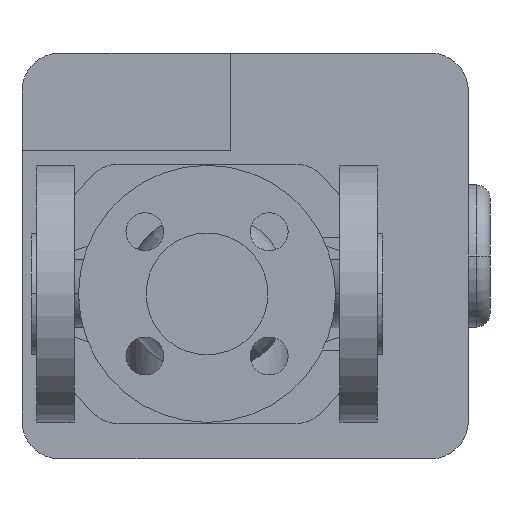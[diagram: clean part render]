
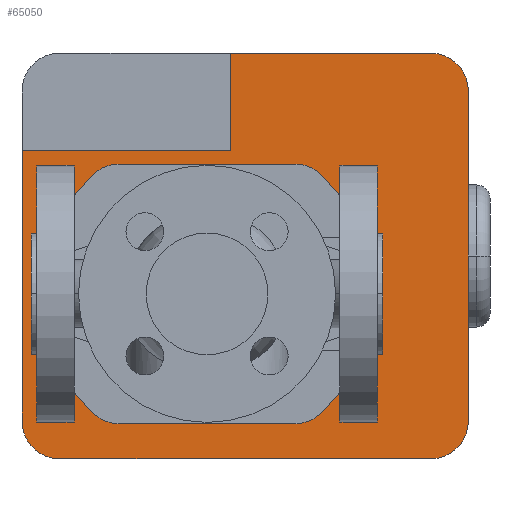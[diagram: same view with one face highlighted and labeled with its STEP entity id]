
A CAD part, front view. The second image highlights one B-rep face of the part: STEP entity #65050.
In plain terms, the highlighted planar face has unit normal (0, -1, 0).
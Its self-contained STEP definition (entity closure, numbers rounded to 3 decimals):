
#52880=CARTESIAN_POINT('',(124.96,498.,11.216));
#52890=VERTEX_POINT('',#52880);
#52920=CARTESIAN_POINT('',(115.,498.,0.));
#52930=DIRECTION('',(0.,1.,0.));
#52940=DIRECTION('',(0.,0.,1.));
#52950=AXIS2_PLACEMENT_3D('',#52920,#52930,#52940);
#52960=CIRCLE('',#52950,15.);
#52970=CARTESIAN_POINT('',(124.96,498.,-11.216));
#52980=VERTEX_POINT('',#52970);
#52990=EDGE_CURVE('',#52890,#52980,#52960,.T.);
#55710=CARTESIAN_POINT('',(107.116,498.,44.128));
#55720=VERTEX_POINT('',#55710);
#55750=CARTESIAN_POINT('',(65.,498.,0.));
#55760=DIRECTION('',(0.,1.,0.));
#55770=DIRECTION('',(0.69,0.,0.723));
#55780=AXIS2_PLACEMENT_3D('',#55750,#55760,#55770);
#55790=CIRCLE('',#55780,61.);
#55800=EDGE_CURVE('',#55720,#52890,#55790,.T.);
#56190=CARTESIAN_POINT('',(5.04,498.,-11.216));
#56200=VERTEX_POINT('',#56190);
#56230=CARTESIAN_POINT('',(15.,498.,0.));
#56240=DIRECTION('',(0.,1.,0.));
#56250=DIRECTION('',(0.,0.,-1.));
#56260=AXIS2_PLACEMENT_3D('',#56230,#56240,#56250);
#56270=CIRCLE('',#56260,15.);
#56280=CARTESIAN_POINT('',(5.04,498.,11.216));
#56290=VERTEX_POINT('',#56280);
#56300=EDGE_CURVE('',#56200,#56290,#56270,.T.);
#57290=CARTESIAN_POINT('',(22.884,498.,-44.128));
#57300=VERTEX_POINT('',#57290);
#57330=CARTESIAN_POINT('',(65.,498.,0.));
#57340=DIRECTION('',(0.,1.,0.));
#57350=DIRECTION('',(-0.69,0.,-0.723));
#57360=AXIS2_PLACEMENT_3D('',#57330,#57340,#57350);
#57370=CIRCLE('',#57360,61.);
#57380=EDGE_CURVE('',#57300,#56200,#57370,.T.);
#59690=CARTESIAN_POINT('',(147.6,498.,-61.));
#59700=VERTEX_POINT('',#59690);
#59750=CARTESIAN_POINT('',(147.6,498.,-47.));
#59760=DIRECTION('',(0.,1.,0.));
#59770=DIRECTION('',(1.,0.,0.));
#59780=AXIS2_PLACEMENT_3D('',#59750,#59760,#59770);
#59790=CIRCLE('',#59780,14.);
#59800=CARTESIAN_POINT('',(161.6,498.,-47.));
#59810=VERTEX_POINT('',#59800);
#59820=EDGE_CURVE('',#59810,#59700,#59790,.T.);
#62660=CARTESIAN_POINT('',(161.6,498.,75.));
#62670=DIRECTION('',(0.,0.,-1.));
#62680=VECTOR('',#62670,1.);
#62690=LINE('',#62660,#62680);
#62700=CARTESIAN_POINT('',(161.6,498.,75.));
#62710=VERTEX_POINT('',#62700);
#62720=EDGE_CURVE('',#62710,#59810,#62690,.T.);
#63080=CARTESIAN_POINT('',(147.6,498.,75.));
#63090=DIRECTION('',(0.,1.,0.));
#63100=DIRECTION('',(0.,0.,1.));
#63110=AXIS2_PLACEMENT_3D('',#63080,#63090,#63100);
#63120=CIRCLE('',#63110,14.);
#63130=CARTESIAN_POINT('',(147.6,498.,89.));
#63140=VERTEX_POINT('',#63130);
#63150=EDGE_CURVE('',#63140,#62710,#63120,.T.);
#63760=CARTESIAN_POINT('',(65.,498.,0.));
#63770=DIRECTION('',(0.,1.,0.));
#63780=DIRECTION('',(0.,0.,1.));
#63790=AXIS2_PLACEMENT_3D('',#63760,#63770,#63780);
#63800=PLANE('',#63790);
#63810=ORIENTED_EDGE('',*,*,#55800,.T.);
#63820=CARTESIAN_POINT('',(97.45,498.,34.));
#63830=DIRECTION('',(0.,1.,0.));
#63840=DIRECTION('',(0.,0.,1.));
#63850=AXIS2_PLACEMENT_3D('',#63820,#63830,#63840);
#63860=CIRCLE('',#63850,14.);
#63870=CARTESIAN_POINT('',(97.45,498.,48.));
#63880=VERTEX_POINT('',#63870);
#63890=EDGE_CURVE('',#63880,#55720,#63860,.T.);
#63900=ORIENTED_EDGE('',*,*,#63890,.T.);
#63910=CARTESIAN_POINT('',(48.775,498.,48.));
#63920=DIRECTION('',(1.,0.,0.));
#63930=VECTOR('',#63920,1.);
#63940=LINE('',#63910,#63930);
#63950=CARTESIAN_POINT('',(32.55,498.,48.));
#63960=VERTEX_POINT('',#63950);
#63970=EDGE_CURVE('',#63960,#63880,#63940,.T.);
#63980=ORIENTED_EDGE('',*,*,#63970,.T.);
#63990=CARTESIAN_POINT('',(32.55,498.,34.));
#64000=DIRECTION('',(0.,1.,0.));
#64010=DIRECTION('',(-0.69,0.,0.723));
#64020=AXIS2_PLACEMENT_3D('',#63990,#64000,#64010);
#64030=CIRCLE('',#64020,14.);
#64040=CARTESIAN_POINT('',(22.884,498.,44.128));
#64050=VERTEX_POINT('',#64040);
#64060=EDGE_CURVE('',#64050,#63960,#64030,.T.);
#64070=ORIENTED_EDGE('',*,*,#64060,.T.);
#64080=CARTESIAN_POINT('',(65.,498.,0.));
#64090=DIRECTION('',(0.,1.,0.));
#64100=DIRECTION('',(-0.69,0.,-0.723));
#64110=AXIS2_PLACEMENT_3D('',#64080,#64090,#64100);
#64120=CIRCLE('',#64110,61.);
#64130=EDGE_CURVE('',#56290,#64050,#64120,.T.);
#64140=ORIENTED_EDGE('',*,*,#64130,.T.);
#64150=ORIENTED_EDGE('',*,*,#56300,.T.);
#64160=ORIENTED_EDGE('',*,*,#57380,.T.);
#64170=CARTESIAN_POINT('',(32.55,498.,-34.));
#64180=DIRECTION('',(0.,1.,0.));
#64190=DIRECTION('',(0.,0.,-1.));
#64200=AXIS2_PLACEMENT_3D('',#64170,#64180,#64190);
#64210=CIRCLE('',#64200,14.);
#64220=CARTESIAN_POINT('',(32.55,498.,-48.));
#64230=VERTEX_POINT('',#64220);
#64240=EDGE_CURVE('',#64230,#57300,#64210,.T.);
#64250=ORIENTED_EDGE('',*,*,#64240,.T.);
#64260=CARTESIAN_POINT('',(81.225,498.,-48.));
#64270=DIRECTION('',(-1.,0.,0.));
#64280=VECTOR('',#64270,1.);
#64290=LINE('',#64260,#64280);
#64300=CARTESIAN_POINT('',(97.45,498.,-48.));
#64310=VERTEX_POINT('',#64300);
#64320=EDGE_CURVE('',#64310,#64230,#64290,.T.);
#64330=ORIENTED_EDGE('',*,*,#64320,.T.);
#64340=CARTESIAN_POINT('',(97.45,498.,-34.));
#64350=DIRECTION('',(0.,1.,0.));
#64360=DIRECTION('',(0.69,0.,-0.723));
#64370=AXIS2_PLACEMENT_3D('',#64340,#64350,#64360);
#64380=CIRCLE('',#64370,14.);
#64390=CARTESIAN_POINT('',(107.116,498.,-44.128));
#64400=VERTEX_POINT('',#64390);
#64410=EDGE_CURVE('',#64400,#64310,#64380,.T.);
#64420=ORIENTED_EDGE('',*,*,#64410,.T.);
#64430=CARTESIAN_POINT('',(65.,498.,0.));
#64440=DIRECTION('',(0.,1.,0.));
#64450=DIRECTION('',(0.69,0.,0.723));
#64460=AXIS2_PLACEMENT_3D('',#64430,#64440,#64450);
#64470=CIRCLE('',#64460,61.);
#64480=EDGE_CURVE('',#52980,#64400,#64470,.T.);
#64490=ORIENTED_EDGE('',*,*,#64480,.T.);
#64500=ORIENTED_EDGE('',*,*,#52990,.T.);
#64510=EDGE_LOOP('',(#64500,#64490,#64420,#64330,#64250,#64160,#64150,
#64140,#64070,#63980,#63900,#63810));
#64520=FACE_BOUND('',#64510,.T.);
#64530=CARTESIAN_POINT('',(73.6,498.,26.5));
#64540=DIRECTION('',(0.,0.,-1.));
#64550=VECTOR('',#64540,1.);
#64560=LINE('',#64530,#64550);
#64570=CARTESIAN_POINT('',(73.6,498.,89.));
#64580=VERTEX_POINT('',#64570);
#64590=CARTESIAN_POINT('',(73.6,498.,53.));
#64600=VERTEX_POINT('',#64590);
#64610=EDGE_CURVE('',#64580,#64600,#64560,.T.);
#64620=ORIENTED_EDGE('',*,*,#64610,.T.);
#64630=CARTESIAN_POINT('',(10.6,498.,89.));
#64640=DIRECTION('',(1.,0.,0.));
#64650=VECTOR('',#64640,1.);
#64660=LINE('',#64630,#64650);
#64670=EDGE_CURVE('',#64580,#63140,#64660,.T.);
#64680=ORIENTED_EDGE('',*,*,#64670,.F.);
#64690=ORIENTED_EDGE('',*,*,#63150,.F.);
#64700=ORIENTED_EDGE('',*,*,#62720,.F.);
#64710=ORIENTED_EDGE('',*,*,#59820,.F.);
#64720=CARTESIAN_POINT('',(147.6,498.,-61.));
#64730=DIRECTION('',(-1.,0.,0.));
#64740=VECTOR('',#64730,1.);
#64750=LINE('',#64720,#64740);
#64760=CARTESIAN_POINT('',(10.6,498.,-61.));
#64770=VERTEX_POINT('',#64760);
#64780=EDGE_CURVE('',#59700,#64770,#64750,.T.);
#64790=ORIENTED_EDGE('',*,*,#64780,.F.);
#64800=CARTESIAN_POINT('',(10.6,498.,-47.));
#64810=DIRECTION('',(0.,1.,0.));
#64820=DIRECTION('',(0.,0.,-1.));
#64830=AXIS2_PLACEMENT_3D('',#64800,#64810,#64820);
#64840=CIRCLE('',#64830,14.);
#64850=CARTESIAN_POINT('',(-3.4,498.,-47.));
#64860=VERTEX_POINT('',#64850);
#64870=EDGE_CURVE('',#64770,#64860,#64840,.T.);
#64880=ORIENTED_EDGE('',*,*,#64870,.F.);
#64890=CARTESIAN_POINT('',(-3.4,498.,-47.));
#64900=DIRECTION('',(0.,0.,1.));
#64910=VECTOR('',#64900,1.);
#64920=LINE('',#64890,#64910);
#64930=CARTESIAN_POINT('',(-3.4,498.,53.));
#64940=VERTEX_POINT('',#64930);
#64950=EDGE_CURVE('',#64860,#64940,#64920,.T.);
#64960=ORIENTED_EDGE('',*,*,#64950,.F.);
#64970=CARTESIAN_POINT('',(30.3,498.,53.));
#64980=DIRECTION('',(-1.,0.,0.));
#64990=VECTOR('',#64980,1.);
#65000=LINE('',#64970,#64990);
#65010=EDGE_CURVE('',#64600,#64940,#65000,.T.);
#65020=ORIENTED_EDGE('',*,*,#65010,.T.);
#65030=EDGE_LOOP('',(#65020,#64960,#64880,#64790,#64710,#64700,#64690,
#64680,#64620));
#65040=FACE_OUTER_BOUND('',#65030,.T.);
#65050=ADVANCED_FACE('',(#64520,#65040),#63800,.F.);
